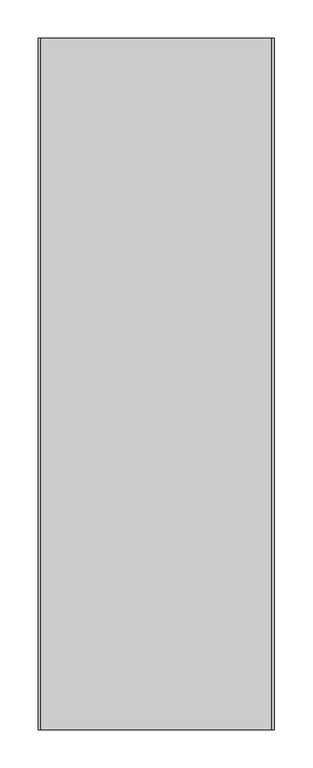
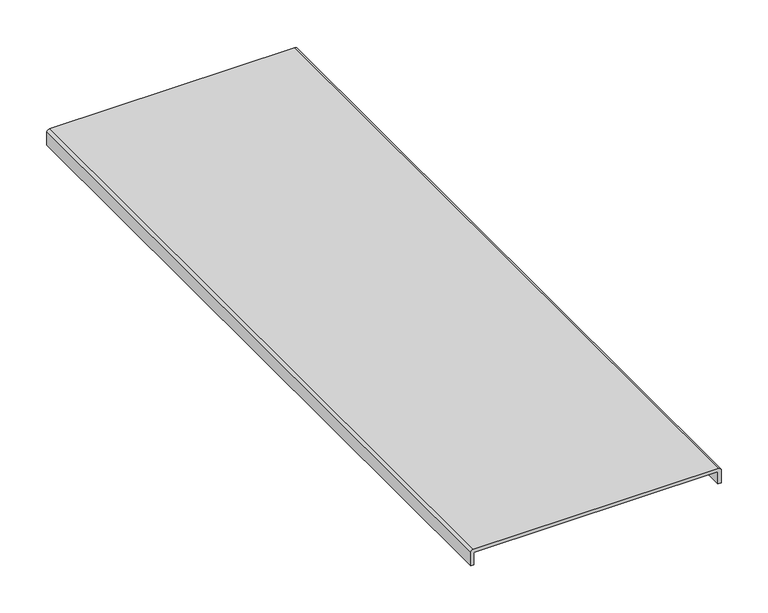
"""IFC4 building model written with IfcOpenShell, lengths in millimetres: proxy geometry, Cable_Tray_Cover_TWT_Basorcanal : Basorcanal TWT 300."""

from ifc_helpers import new_model, si_unit, point, frame, frame_2d, origin, place, context, project, spatial, polyline, circle_curve, trimmed, segment, composite_curve, outline, extrude, source, transform, mapped, element, save


def generic_models_84cd7154(model_context):
    return source(origin(), model_context, "Body", "SweptSolid", [
        extrude(outline(composite_curve([segment(trimmed(circle_curve(frame_2d((-0.5, -149.5)), 0.5), [point((-0.5, -150.0))], [point((0.0, -149.5))], True, "CARTESIAN"), True, "CONTINUOUS"), segment(polyline([(0.0, -149.5), (0.0, 149.5)]), True, "CONTINUOUS"), segment(trimmed(circle_curve(frame_2d((-0.5, 149.5)), 0.5), [point((0.0, 149.5))], [point((-0.5, 150.0))], True, "CARTESIAN"), True, "CONTINUOUS"), segment(polyline([(-0.5, 150.0), (-16.0, 150.0), (-16.0, 154.0), (0.9268922, 154.0)]), True, "CONTINUOUS"), segment(trimmed(circle_curve(frame_2d((0.9268922, 150.9268922)), 3.0731078), [point((0.9268922, 154.0))], [point((4.0, 150.9268922))], False, "CARTESIAN"), True, "CONTINUOUS"), segment(polyline([(4.0, 150.9268922), (4.0, -150.6770801)]), True, "CONTINUOUS"), segment(trimmed(circle_curve(frame_2d((0.6770801, -150.6770801)), 3.3229199), [point((4.0, -150.6770801))], [point((0.6770801, -154.0))], False, "CARTESIAN"), True, "CONTINUOUS"), segment(polyline([(0.6770801, -154.0), (-16.0, -154.0), (-16.0, -150.0), (-0.5, -150.0)]), True, "CONTINUOUS")], self_intersect=False)), frame((0.0, 0.0, 0.0), z_axis=(0.0, 1.0, 0.0), x_axis=(0.0, 0.0, 1.0)), (0.0, 0.0, 1.0), 902.6),
    ])


if __name__ == "__main__":
    model = new_model("IFC4")
    model_context = context("Model", 3, world=origin())
    ifc_project = project(units=[si_unit("LENGTHUNIT", "METRE", prefix="MILLI")], contexts=[model_context])
    site = spatial("IfcSite", under=ifc_project)
    building = spatial("IfcBuilding", under=site)
    placement = place(None, origin())
    generic_models_shape = generic_models_84cd7154(model_context)
    element("IfcBuildingElementProxy", 1, Name="Cable_Tray_Cover_TWT_Basorcanal : Basorcanal TWT 300", ObjectType="Cable_Tray_Cover_TWT_Basorcanal : Basorcanal TWT 300", at=placement, inside=building, context=model_context, shape_type="MappedRepresentation", body=[
        mapped(generic_models_shape, transform((0.0, 0.0, 0.0), x_axis=(1.0, 0.0, 0.0), y_axis=(0.0, 1.0, 0.0), z_axis=(0.0, 0.0, 1.0))),
    ])
    save(model, "model.ifc")
